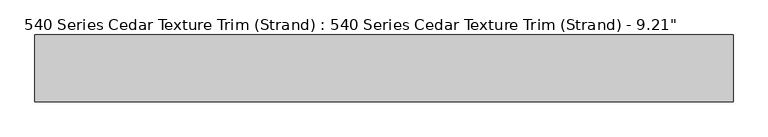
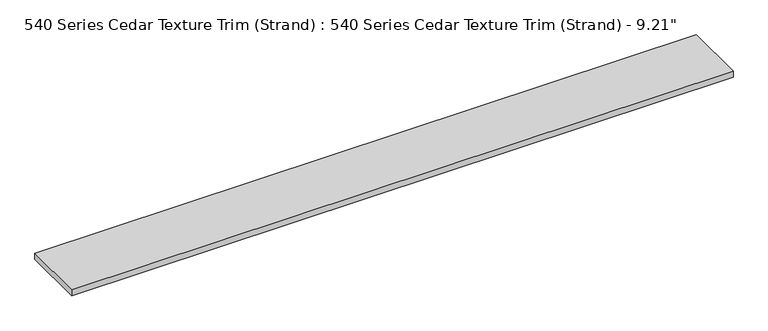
"""IFC4 building model written with IfcOpenShell, lengths in millimetres: proxy geometry."""

from ifc_helpers import new_model, si_unit, origin, origin_with_axes, place, context, project, spatial, polyline, outline, extrude, source, transform, mapped, element, save


def proxy_05dcbc40(model_context):
    return source(origin(), model_context, "Body", "SweptSolid", [
        extrude(outline(polyline([(2438.4, 0.0), (0.0, 0.0), (0.0, 233.9578125), (2438.4, 233.9578125), (2438.4, 0.0)])), origin_with_axes(), (0.0, 0.0, 1.0), 23.1179687),
    ])


if __name__ == "__main__":
    model = new_model("IFC4")
    model_context = context("Model", 3, world=origin())
    ifc_project = project(units=[si_unit("LENGTHUNIT", "METRE", prefix="MILLI")], contexts=[model_context])
    site = spatial("IfcSite", under=ifc_project)
    building = spatial("IfcBuilding", under=site)
    placement = place(None, origin())
    proxy_shape = proxy_05dcbc40(model_context)
    element("IfcBuildingElementProxy", 1, Name="540 Series Cedar Texture Trim (Strand) : 540 Series Cedar Texture Trim (Strand) - 9.21\"", ObjectType="540 Series Cedar Texture Trim (Strand) : 540 Series Cedar Texture Trim (Strand) - 9.21\"", at=placement, inside=building, context=model_context, shape_type="MappedRepresentation", body=[
        mapped(proxy_shape, transform((0.0, 0.0, 0.0), x_axis=(1.0, 0.0, 0.0), y_axis=(0.0, 1.0, 0.0), z_axis=(0.0, 0.0, 1.0))),
    ])
    save(model, "model.ifc")
